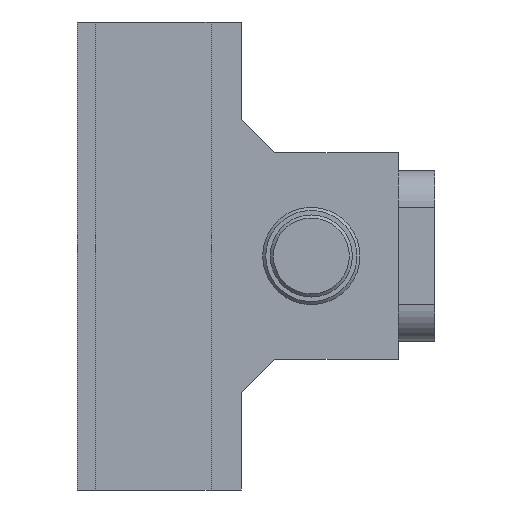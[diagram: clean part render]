
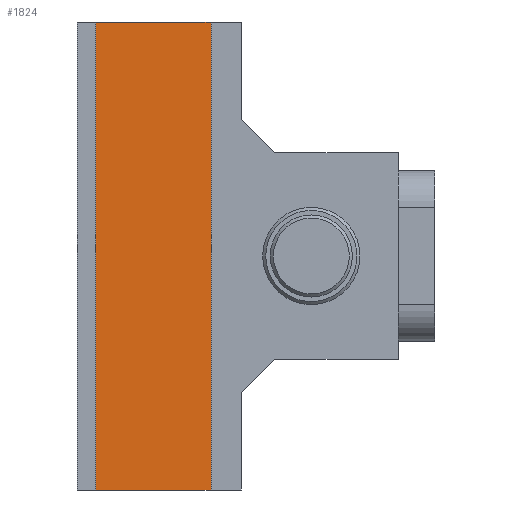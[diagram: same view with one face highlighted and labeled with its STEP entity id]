
A CAD part, left-side view. The second image highlights one B-rep face of the part: STEP entity #1824.
In plain terms, the highlighted planar face has unit normal (-1, 0, 0).
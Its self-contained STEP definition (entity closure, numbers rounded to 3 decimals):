
#55 = CARTESIAN_POINT ( 'NONE',  ( -11.5, 62., 38.5 ) ) ;
#172 = CARTESIAN_POINT ( 'NONE',  ( -11.5, 62., 38.5 ) ) ;
#193 = AXIS2_PLACEMENT_3D ( 'NONE', #172, #202, #995 ) ;
#200 = CARTESIAN_POINT ( 'NONE',  ( -11.5, 43., -38.5 ) ) ;
#202 = DIRECTION ( 'NONE',  ( 1., 0., 0. ) ) ;
#268 = VERTEX_POINT ( 'NONE', #2517 ) ;
#276 = LINE ( 'NONE', #1128, #2445 ) ;
#294 = DIRECTION ( 'NONE',  ( 0., 0., -1. ) ) ;
#355 = CARTESIAN_POINT ( 'NONE',  ( -11.5, 43., 38.5 ) ) ;
#466 = LINE ( 'NONE', #1098, #1525 ) ;
#488 = LINE ( 'NONE', #2096, #897 ) ;
#531 = EDGE_CURVE ( 'NONE', #820, #1251, #488, .T. ) ;
#820 = VERTEX_POINT ( 'NONE', #355 ) ;
#880 = DIRECTION ( 'NONE',  ( 0., 0., -1. ) ) ;
#897 = VECTOR ( 'NONE', #294, 1000. ) ;
#922 = EDGE_CURVE ( 'NONE', #2363, #1251, #466, .T. ) ;
#995 = DIRECTION ( 'NONE',  ( 0., 1., 0. ) ) ;
#1098 = CARTESIAN_POINT ( 'NONE',  ( -11.5, 62., -38.5 ) ) ;
#1128 = CARTESIAN_POINT ( 'NONE',  ( -11.5, 62., 38.5 ) ) ;
#1182 = CARTESIAN_POINT ( 'NONE',  ( -11.5, 62., -38.5 ) ) ;
#1251 = VERTEX_POINT ( 'NONE', #200 ) ;
#1399 = ORIENTED_EDGE ( 'NONE', *, *, #531, .F. ) ;
#1415 = EDGE_CURVE ( 'NONE', #268, #2363, #2221, .T. ) ;
#1431 = EDGE_CURVE ( 'NONE', #268, #820, #276, .T. ) ;
#1525 = VECTOR ( 'NONE', #1676, 1000. ) ;
#1676 = DIRECTION ( 'NONE',  ( 0., -1., 0. ) ) ;
#1785 = ORIENTED_EDGE ( 'NONE', *, *, #922, .T. ) ;
#1824 = ADVANCED_FACE ( 'NONE', ( #2155 ), #2168, .F. ) ;
#1998 = ORIENTED_EDGE ( 'NONE', *, *, #1431, .F. ) ;
#2096 = CARTESIAN_POINT ( 'NONE',  ( -11.5, 43., 38.5 ) ) ;
#2148 = ORIENTED_EDGE ( 'NONE', *, *, #1415, .T. ) ;
#2155 = FACE_OUTER_BOUND ( 'NONE', #2339, .T. ) ;
#2168 = PLANE ( 'NONE',  #193 ) ;
#2221 = LINE ( 'NONE', #55, #2575 ) ;
#2339 = EDGE_LOOP ( 'NONE', ( #2148, #1785, #1399, #1998 ) ) ;
#2363 = VERTEX_POINT ( 'NONE', #1182 ) ;
#2445 = VECTOR ( 'NONE', #2460, 1000. ) ;
#2460 = DIRECTION ( 'NONE',  ( 0., -1., 0. ) ) ;
#2517 = CARTESIAN_POINT ( 'NONE',  ( -11.5, 62., 38.5 ) ) ;
#2575 = VECTOR ( 'NONE', #880, 1000. ) ;
